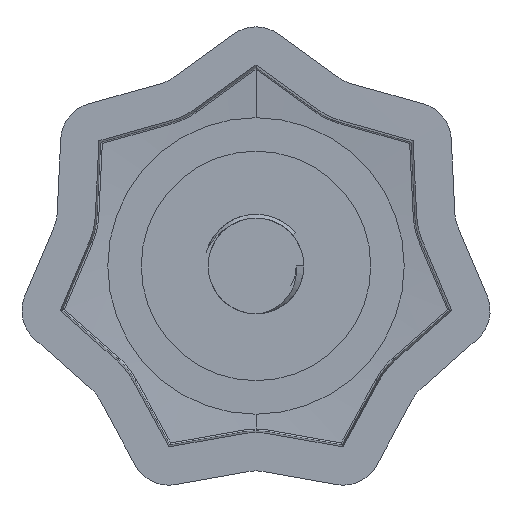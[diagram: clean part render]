
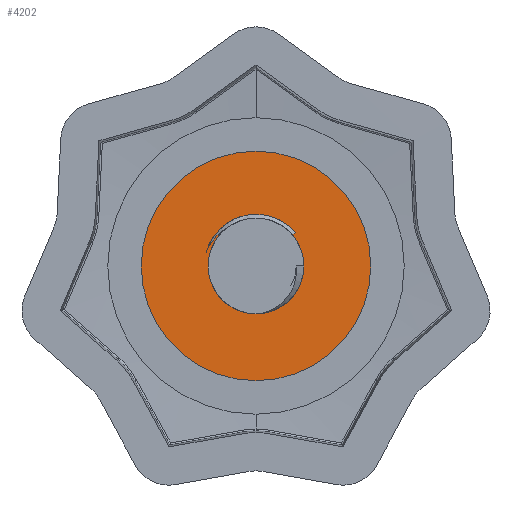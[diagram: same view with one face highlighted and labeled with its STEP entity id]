
A CAD part, front view. The second image highlights one B-rep face of the part: STEP entity #4202.
In plain terms, the highlighted planar face has unit normal (0, -1, 0).
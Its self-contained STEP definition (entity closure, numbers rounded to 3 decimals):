
#43 = AXIS2_PLACEMENT_3D ( 'NONE', #1828, #6203, #2449 ) ;
#241 = AXIS2_PLACEMENT_3D ( 'NONE', #3294, #7654, #3916 ) ;
#689 = ORIENTED_EDGE ( 'NONE', *, *, #5958, .F. ) ;
#736 = CIRCLE ( 'NONE', #6439, 2.5 ) ;
#775 = DIRECTION ( 'NONE',  ( 0., 1., 0. ) ) ;
#841 = FACE_OUTER_BOUND ( 'NONE', #6081, .T. ) ;
#981 = CARTESIAN_POINT ( 'NONE',  ( 0., -8., 0. ) ) ;
#1454 = VERTEX_POINT ( 'NONE', #6496 ) ;
#1458 = DIRECTION ( 'NONE',  ( -0.766, 0., -0.643 ) ) ;
#1620 = DIRECTION ( 'NONE',  ( 0., 0., -1. ) ) ;
#1621 = CARTESIAN_POINT ( 'NONE',  ( 0., -8., 0. ) ) ;
#1641 = VECTOR ( 'NONE', #1458, 1000. ) ;
#1799 = ORIENTED_EDGE ( 'NONE', *, *, #4780, .F. ) ;
#1828 = CARTESIAN_POINT ( 'NONE',  ( 0., -8., 0. ) ) ;
#1945 = EDGE_CURVE ( 'NONE', #1454, #5666, #8104, .T. ) ;
#2051 = CARTESIAN_POINT ( 'NONE',  ( 2.068, -8., 1.736 ) ) ;
#2062 = VERTEX_POINT ( 'NONE', #4609 ) ;
#2103 = CARTESIAN_POINT ( 'NONE',  ( -1.384, -8., 2.082 ) ) ;
#2198 = VERTEX_POINT ( 'NONE', #2051 ) ;
#2236 = DIRECTION ( 'NONE',  ( 0., 0., -1. ) ) ;
#2449 = DIRECTION ( 'NONE',  ( 0., 0., -1. ) ) ;
#2603 = ORIENTED_EDGE ( 'NONE', *, *, #5407, .T. ) ;
#2656 = B_SPLINE_CURVE_WITH_KNOTS ( 'NONE', 3,
 ( #2103, #5857, #7126, #3383, #7749, #4012, #6744, #2998, #7368, #3631 ),
 .UNSPECIFIED., .F., .F.,
 ( 4, 2, 2, 2, 4 ),
 ( 0.003, 0.004, 0.004, 0.005, 0.005 ),
 .UNSPECIFIED. ) ;
#2846 = CARTESIAN_POINT ( 'NONE',  ( -1.384, -8., 2.082 ) ) ;
#2960 = VERTEX_POINT ( 'NONE', #7063 ) ;
#2998 = CARTESIAN_POINT ( 'NONE',  ( -2.475, -8., 1.007 ) ) ;
#3126 = CARTESIAN_POINT ( 'NONE',  ( -2.602, -8., 0.723 ) ) ;
#3294 = CARTESIAN_POINT ( 'NONE',  ( 0., -8., 0. ) ) ;
#3383 = CARTESIAN_POINT ( 'NONE',  ( -1.898, -8., 1.734 ) ) ;
#3548 = DIRECTION ( 'NONE',  ( 0., 0., -1. ) ) ;
#3631 = CARTESIAN_POINT ( 'NONE',  ( -2.602, -8., 0.723 ) ) ;
#3916 = DIRECTION ( 'NONE',  ( 0., 0., -1. ) ) ;
#3996 = EDGE_CURVE ( 'NONE', #2198, #2960, #8087, .T. ) ;
#4012 = CARTESIAN_POINT ( 'NONE',  ( -2.218, -8., 1.398 ) ) ;
#4202 = ADVANCED_FACE ( 'NONE', ( #841, #7299 ), #6662, .T. ) ;
#4459 = CARTESIAN_POINT ( 'NONE',  ( 0., -8., 6. ) ) ;
#4502 = VERTEX_POINT ( 'NONE', #3126 ) ;
#4542 = CARTESIAN_POINT ( 'NONE',  ( 0., -8., 0. ) ) ;
#4578 = EDGE_CURVE ( 'NONE', #4502, #2198, #6923, .T. ) ;
#4609 = CARTESIAN_POINT ( 'NONE',  ( 0., -8., -2.5 ) ) ;
#4780 = EDGE_CURVE ( 'NONE', #2062, #2960, #7790, .T. ) ;
#4795 = ORIENTED_EDGE ( 'NONE', *, *, #5176, .T. ) ;
#4983 = CIRCLE ( 'NONE', #43, 6. ) ;
#5037 = AXIS2_PLACEMENT_3D ( 'NONE', #4542, #775, #5186 ) ;
#5176 = EDGE_CURVE ( 'NONE', #5666, #1454, #4983, .T. ) ;
#5186 = DIRECTION ( 'NONE',  ( 0., 0., -1. ) ) ;
#5320 = EDGE_LOOP ( 'NONE', ( #7306, #6915, #1799, #689, #2603 ) ) ;
#5341 = ORIENTED_EDGE ( 'NONE', *, *, #1945, .T. ) ;
#5390 = DIRECTION ( 'NONE',  ( 0., -1., 0. ) ) ;
#5407 = EDGE_CURVE ( 'NONE', #5951, #4502, #2656, .T. ) ;
#5440 = AXIS2_PLACEMENT_3D ( 'NONE', #7262, #7286, #3548 ) ;
#5666 = VERTEX_POINT ( 'NONE', #4459 ) ;
#5817 = CARTESIAN_POINT ( 'NONE',  ( 0., -8., 0. ) ) ;
#5857 = CARTESIAN_POINT ( 'NONE',  ( -1.521, -8., 2.01 ) ) ;
#5951 = VERTEX_POINT ( 'NONE', #2846 ) ;
#5958 = EDGE_CURVE ( 'NONE', #5951, #2062, #736, .T. ) ;
#5990 = DIRECTION ( 'NONE',  ( 0., -1., 0. ) ) ;
#6081 = EDGE_LOOP ( 'NONE', ( #4795, #5341 ) ) ;
#6203 = DIRECTION ( 'NONE',  ( 0., -1., 0. ) ) ;
#6439 = AXIS2_PLACEMENT_3D ( 'NONE', #981, #5390, #1620 ) ;
#6496 = CARTESIAN_POINT ( 'NONE',  ( 0., -8., -6. ) ) ;
#6662 = PLANE ( 'NONE',  #5440 ) ;
#6744 = CARTESIAN_POINT ( 'NONE',  ( -2.312, -8., 1.272 ) ) ;
#6915 = ORIENTED_EDGE ( 'NONE', *, *, #3996, .T. ) ;
#6923 = CIRCLE ( 'NONE', #5037, 2.7 ) ;
#7063 = CARTESIAN_POINT ( 'NONE',  ( 1.915, -8., 1.607 ) ) ;
#7126 = CARTESIAN_POINT ( 'NONE',  ( -1.653, -8., 1.925 ) ) ;
#7262 = CARTESIAN_POINT ( 'NONE',  ( 0., -8., 0. ) ) ;
#7286 = DIRECTION ( 'NONE',  ( 0., -1., 0. ) ) ;
#7299 = FACE_BOUND ( 'NONE', #5320, .T. ) ;
#7306 = ORIENTED_EDGE ( 'NONE', *, *, #4578, .T. ) ;
#7368 = CARTESIAN_POINT ( 'NONE',  ( -2.544, -8., 0.868 ) ) ;
#7654 = DIRECTION ( 'NONE',  ( 0., -1., 0. ) ) ;
#7749 = CARTESIAN_POINT ( 'NONE',  ( -2.011, -8., 1.628 ) ) ;
#7778 = AXIS2_PLACEMENT_3D ( 'NONE', #1621, #5990, #2236 ) ;
#7790 = CIRCLE ( 'NONE', #7778, 2.5 ) ;
#8087 = LINE ( 'NONE', #5817, #1641 ) ;
#8104 = CIRCLE ( 'NONE', #241, 6. ) ;
